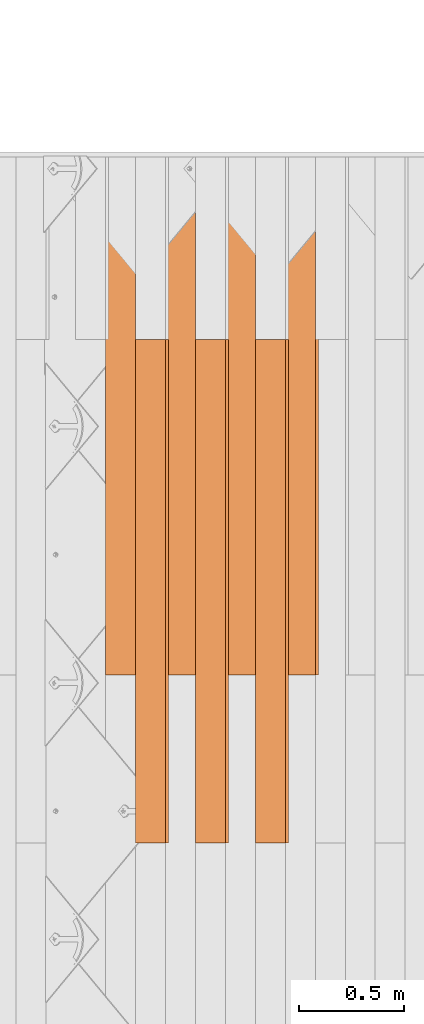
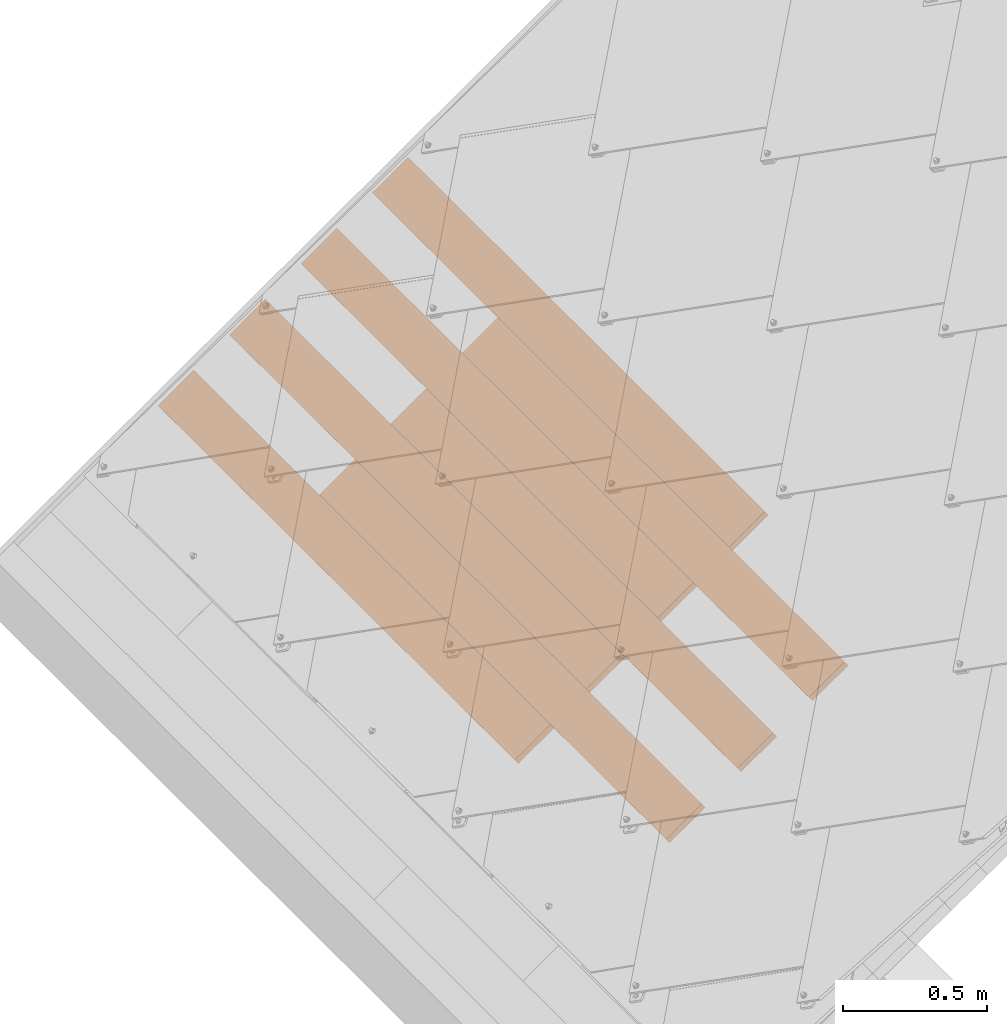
# One storey, part 55 of 151: 7 proxies, 1 element without a shape of its own.
"""IFC2X3 building model written with IfcOpenShell, lengths in millimetres."""

from ifc_helpers import new_model, entity, si_unit, converted_unit, derived_unit, direction, frame, frame_2d, origin, place, context, subcontext, project, spatial, rectangle, extrude, source, transform, mapped, material, type_object, type_shapes, element, aggregate, save


model = new_model("IFC2X3")

# Units and contexts
model_context = context("Model", 3, precision=0.01, world=origin(), true_north=direction((6.12303176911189e-17, 1.0)))
body_context = subcontext(model_context, "Body", "Model", "MODEL_VIEW")
ifc_project = project(units=[si_unit("LENGTHUNIT", "METRE", prefix="MILLI"), si_unit("AREAUNIT", "SQUARE_METRE"), si_unit("VOLUMEUNIT", "CUBIC_METRE"), converted_unit("PLANEANGLEUNIT", "DEGREE", entity("IfcRatioMeasure", 0.0174532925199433), si_unit("PLANEANGLEUNIT", "RADIAN"), dimensions=[0, 0, 0, 0, 0, 0, 0]), si_unit("MASSUNIT", "GRAM", prefix="KILO"), derived_unit("MASSDENSITYUNIT", [(si_unit("MASSUNIT", "GRAM", prefix="KILO"), 1), (si_unit("LENGTHUNIT", "METRE"), -3)]), si_unit("TIMEUNIT", "SECOND"), si_unit("FREQUENCYUNIT", "HERTZ"), si_unit("THERMODYNAMICTEMPERATUREUNIT", "DEGREE_CELSIUS"), derived_unit("THERMALTRANSMITTANCEUNIT", [(si_unit("MASSUNIT", "GRAM", prefix="KILO"), 1), (si_unit("THERMODYNAMICTEMPERATUREUNIT", "KELVIN"), -1), (si_unit("TIMEUNIT", "SECOND"), -3)]), derived_unit("VOLUMETRICFLOWRATEUNIT", [(si_unit("LENGTHUNIT", "METRE"), 3), (si_unit("TIMEUNIT", "SECOND"), -1)]), si_unit("ELECTRICCURRENTUNIT", "AMPERE"), si_unit("ELECTRICVOLTAGEUNIT", "VOLT"), si_unit("POWERUNIT", "WATT"), si_unit("FORCEUNIT", "NEWTON", prefix="KILO"), si_unit("ILLUMINANCEUNIT", "LUX"), si_unit("LUMINOUSFLUXUNIT", "LUMEN"), si_unit("LUMINOUSINTENSITYUNIT", "CANDELA"), derived_unit("USERDEFINED", [(si_unit("MASSUNIT", "GRAM", prefix="KILO"), -1), (si_unit("LENGTHUNIT", "METRE"), -2), (si_unit("TIMEUNIT", "SECOND"), 3), (si_unit("LUMINOUSFLUXUNIT", "LUMEN"), 1)]), derived_unit("LINEARVELOCITYUNIT", [(si_unit("LENGTHUNIT", "METRE"), 1), (si_unit("TIMEUNIT", "SECOND"), -1)]), si_unit("PRESSUREUNIT", "PASCAL"), derived_unit("USERDEFINED", [(si_unit("LENGTHUNIT", "METRE"), -2), (si_unit("MASSUNIT", "GRAM", prefix="KILO"), 1), (si_unit("TIMEUNIT", "SECOND"), -2)])], contexts=[model_context])

# Site, building, storey
site_placement = place(None, origin())
site = spatial("IfcSite", under=ifc_project, at=site_placement, Name="Default", CompositionType="ELEMENT")
building_placement = place(site_placement, origin())
building = spatial("IfcBuilding", under=site, at=building_placement, CompositionType="ELEMENT")
storey_placement = place(building_placement, origin())
storey = spatial("IfcBuildingStorey", under=building, at=storey_placement, Name="Level 1", CompositionType="ELEMENT", Elevation=0.0)

# Assembly, proxies
assembly_placement = place(storey_placement, origin())
assembly = element("IfcElementAssembly", 1, at=assembly_placement, inside=storey, Name="Structural Framing Assembly:Roof Construction Assembly", ObjectType="Structural Framing Assembly:Roof Construction Assembly", AssemblyPlace="NOTDEFINED", PredefinedType="USERDEFINED")
ifc_material = material(Name="Wood - Generic - Wood For Showcase")
building_element_proxy_type_1 = type_object("IfcBuildingElementProxyType", Name="Structural Framing 15", PredefinedType="NOTDEFINED", material=ifc_material)
shared_shape_1 = source(origin(), body_context, "Body", "SweptSolid", [
    extrude(rectangle(XDim=24.9999999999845, YDim=174.344679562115, at=frame_2d((-1.77635683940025e-13, -4.54747350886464e-13), x_axis=(0.0, 1.0))), frame((1128.20180147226, 1455.55080214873, 2760.23940055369), z_axis=(0.0, 1.0, 0.0), x_axis=(-0.819152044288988, 0.0, -0.573576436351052)), (0.0, 0.0, 1.0), 2469.99999999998),
])
type_shapes(building_element_proxy_type_1, [shared_shape_1])
proxy_1_placement = place(assembly_placement, frame((-2227.54893967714, 0.0, -1600.0)))
proxy_1 = element("IfcBuildingElementProxy", 2, at=proxy_1_placement, type_object=building_element_proxy_type_1, material=ifc_material, Name="Structural Framing 95:Structural Framing 15", ObjectType="Structural Framing 95:Structural Framing 15", context=body_context, shape_type="MappedRepresentation", body=[
    mapped(shared_shape_1, transform((0.0, 0.0, 0.0), scale=1.0)),
])
building_element_proxy_type_2 = type_object("IfcBuildingElementProxyType", Name="Structural Framing 15", PredefinedType="NOTDEFINED", material=ifc_material)
shared_shape_2 = source(origin(), body_context, "Body", "SweptSolid", [
    extrude(rectangle(XDim=24.9999999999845, YDim=174.344679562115, at=frame_2d((-1.77635683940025e-13, -4.54747350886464e-13), x_axis=(0.0, 1.0))), frame((1128.20180147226, 1525.55080214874, 2760.23940055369), z_axis=(0.0, 1.0, 0.0), x_axis=(-0.819152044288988, 0.0, -0.573576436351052)), (0.0, 0.0, 1.0), 2399.99999999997),
])
type_shapes(building_element_proxy_type_2, [shared_shape_2])
proxy_2_placement = place(assembly_placement, frame((-2370.36374035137, -870.0, -1700.0)))
proxy_2 = element("IfcBuildingElementProxy", 3, at=proxy_2_placement, type_object=building_element_proxy_type_2, material=ifc_material, Name="Structural Framing 100:Structural Framing 15", ObjectType="Structural Framing 100:Structural Framing 15", context=body_context, shape_type="MappedRepresentation", body=[
    mapped(shared_shape_2, transform((0.0, 0.0, 0.0), scale=1.0)),
])
building_element_proxy_type_3 = type_object("IfcBuildingElementProxyType", Name="Structural Framing 15", PredefinedType="NOTDEFINED", material=ifc_material)
shared_shape_3 = source(origin(), body_context, "Body", "SweptSolid", [
    extrude(rectangle(XDim=24.9999999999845, YDim=174.344679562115, at=frame_2d((-1.77635683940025e-13, -4.54747350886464e-13), x_axis=(0.0, 1.0))), frame((1128.20180147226, 1455.55080214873, 2760.23940055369), z_axis=(0.0, 1.0, 0.0), x_axis=(-0.819152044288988, 0.0, -0.573576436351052)), (0.0, 0.0, 1.0), 2469.99999999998),
])
type_shapes(building_element_proxy_type_3, [shared_shape_3])
proxy_3_placement = place(assembly_placement, frame((-2513.17854102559, 0.0, -1800.0)))
proxy_3 = element("IfcBuildingElementProxy", 4, at=proxy_3_placement, type_object=building_element_proxy_type_3, material=ifc_material, Name="Structural Framing 105:Structural Framing 15", ObjectType="Structural Framing 105:Structural Framing 15", context=body_context, shape_type="MappedRepresentation", body=[
    mapped(shared_shape_3, transform((0.0, 0.0, 0.0), scale=1.0)),
])
building_element_proxy_type_4 = type_object("IfcBuildingElementProxyType", Name="Structural Framing 15", PredefinedType="NOTDEFINED", material=ifc_material)
shared_shape_4 = source(origin(), body_context, "Body", "SweptSolid", [
    extrude(rectangle(XDim=24.9999999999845, YDim=174.344679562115, at=frame_2d((-1.77635683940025e-13, -4.54747350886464e-13), x_axis=(0.0, 1.0))), frame((1128.20180147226, 1525.55080214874, 2760.23940055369), z_axis=(0.0, 1.0, 0.0), x_axis=(-0.819152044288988, 0.0, -0.573576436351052)), (0.0, 0.0, 1.0), 2399.99999999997),
])
type_shapes(building_element_proxy_type_4, [shared_shape_4])
proxy_4_placement = place(assembly_placement, frame((-2655.99334169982, -870.0, -1900.0)))
proxy_4 = element("IfcBuildingElementProxy", 5, at=proxy_4_placement, type_object=building_element_proxy_type_4, material=ifc_material, Name="Structural Framing 110:Structural Framing 15", ObjectType="Structural Framing 110:Structural Framing 15", context=body_context, shape_type="MappedRepresentation", body=[
    mapped(shared_shape_4, transform((0.0, 0.0, 0.0), scale=1.0)),
])
building_element_proxy_type_5 = type_object("IfcBuildingElementProxyType", Name="Structural Framing 15", PredefinedType="NOTDEFINED", material=ifc_material)
shared_shape_5 = source(origin(), body_context, "Body", "SweptSolid", [
    extrude(rectangle(XDim=24.9999999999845, YDim=174.344679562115, at=frame_2d((-1.77635683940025e-13, -4.54747350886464e-13), x_axis=(0.0, 1.0))), frame((1128.20180147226, 1455.55080214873, 2760.23940055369), z_axis=(0.0, 1.0, 0.0), x_axis=(-0.819152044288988, 0.0, -0.573576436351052)), (0.0, 0.0, 1.0), 2469.99999999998),
])
type_shapes(building_element_proxy_type_5, [shared_shape_5])
proxy_5_placement = place(assembly_placement, frame((-2798.80814237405, 0.0, -2000.0)))
proxy_5 = element("IfcBuildingElementProxy", 6, at=proxy_5_placement, type_object=building_element_proxy_type_5, material=ifc_material, Name="Structural Framing 115:Structural Framing 15", ObjectType="Structural Framing 115:Structural Framing 15", context=body_context, shape_type="MappedRepresentation", body=[
    mapped(shared_shape_5, transform((0.0, 0.0, 0.0), scale=1.0)),
])
building_element_proxy_type_6 = type_object("IfcBuildingElementProxyType", Name="Structural Framing 15", PredefinedType="NOTDEFINED", material=ifc_material)
shared_shape_6 = source(origin(), body_context, "Body", "SweptSolid", [
    extrude(rectangle(XDim=24.9999999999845, YDim=174.344679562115, at=frame_2d((-1.77635683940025e-13, -4.54747350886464e-13), x_axis=(0.0, 1.0))), frame((1128.20180147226, 1525.55080214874, 2760.23940055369), z_axis=(0.0, 1.0, 0.0), x_axis=(-0.819152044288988, 0.0, -0.573576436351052)), (0.0, 0.0, 1.0), 2399.99999999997),
])
type_shapes(building_element_proxy_type_6, [shared_shape_6])
proxy_6_placement = place(assembly_placement, frame((-2941.62294304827, -870.0, -2100.0)))
proxy_6 = element("IfcBuildingElementProxy", 7, at=proxy_6_placement, type_object=building_element_proxy_type_6, material=ifc_material, Name="Structural Framing 120:Structural Framing 15", ObjectType="Structural Framing 120:Structural Framing 15", context=body_context, shape_type="MappedRepresentation", body=[
    mapped(shared_shape_6, transform((0.0, 0.0, 0.0), scale=1.0)),
])
building_element_proxy_type_7 = type_object("IfcBuildingElementProxyType", Name="Structural Framing 15", PredefinedType="NOTDEFINED", material=ifc_material)
shared_shape_7 = source(origin(), body_context, "Body", "SweptSolid", [
    extrude(rectangle(XDim=24.9999999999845, YDim=174.344679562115, at=frame_2d((-1.77635683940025e-13, -4.54747350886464e-13), x_axis=(0.0, 1.0))), frame((1128.20180147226, 1455.55080214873, 2760.23940055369), z_axis=(0.0, 1.0, 0.0), x_axis=(-0.819152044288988, 0.0, -0.573576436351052)), (0.0, 0.0, 1.0), 2469.99999999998),
])
type_shapes(building_element_proxy_type_7, [shared_shape_7])
proxy_7_placement = place(assembly_placement, frame((-3084.43774372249, 0.0, -2200.0)))
proxy_7 = element("IfcBuildingElementProxy", 8, at=proxy_7_placement, type_object=building_element_proxy_type_7, material=ifc_material, Name="Structural Framing 125:Structural Framing 15", ObjectType="Structural Framing 125:Structural Framing 15", context=body_context, shape_type="MappedRepresentation", body=[
    mapped(shared_shape_7, transform((0.0, 0.0, 0.0), scale=1.0)),
])
aggregate(assembly, [proxy_1, proxy_2, proxy_3, proxy_4, proxy_5, proxy_6, proxy_7])

save(model, "model.ifc")
